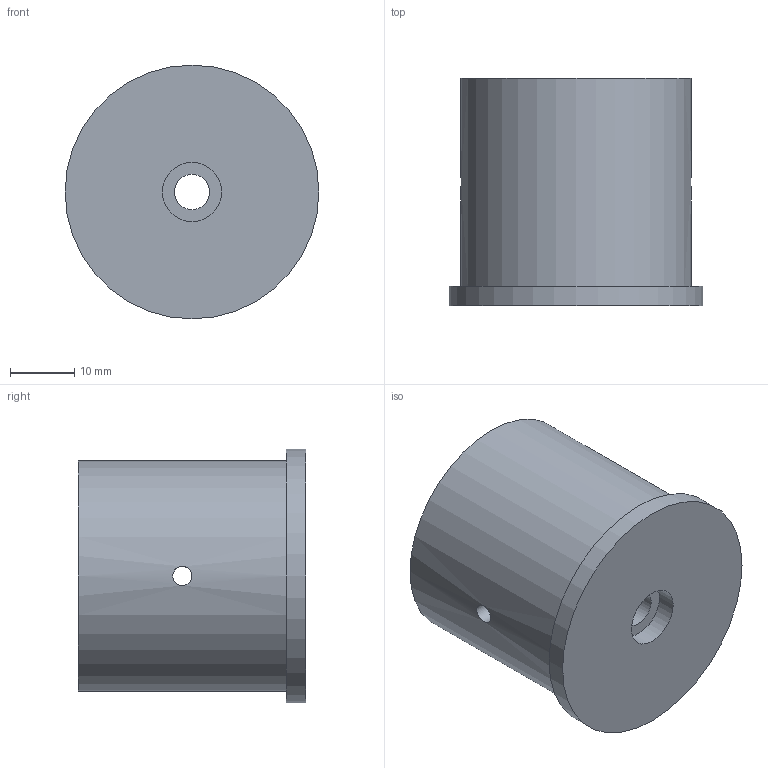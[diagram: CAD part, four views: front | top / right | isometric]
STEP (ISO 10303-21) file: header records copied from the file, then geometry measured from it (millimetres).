
FILE_DESCRIPTION(('Open CASCADE Model'),'2;1');
FILE_NAME('Open CASCADE Shape Model','2026-10-16T05:05:18',('Author'),( 'Open CASCADE'),'Open CASCADE STEP processor 7.9','Open CASCADE 7.9' ,'Unknown');
FILE_SCHEMA(('AUTOMOTIVE_DESIGN { 1 0 10303 214 1 1 1 1 }'));
Length unit declared in the file: millimetre
Products named in the file (1): Open CASCADE STEP translator 7.9 5
Bounding box: 39.6 x 35.49 x 39.6 mm (x, y, z)
Volume: 19335.4 mm3; surface area: 12182.4 mm2
Topology: 1 solids, 1 shells, 16 faces, 38 edges, 24 vertices
Faces by surface type: cylinder 10, plane 6
Full cylindrical faces by diameter (mm): 3 x4, 5.5 x1, 9.2 x1, 13 x1, 30 x1, 36 x1, 39.6 x1
Entity records: 2432 total; most frequent: CARTESIAN_POINT 1691, DIRECTION 118, ORIENTED_EDGE 76, PCURVE 76, DEFINITIONAL_REPRESENTATION 76, LINE 54, VECTOR 54, EDGE_CURVE 38
